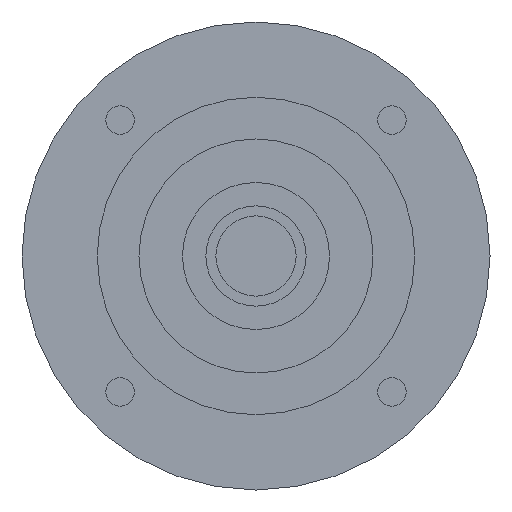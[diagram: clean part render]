
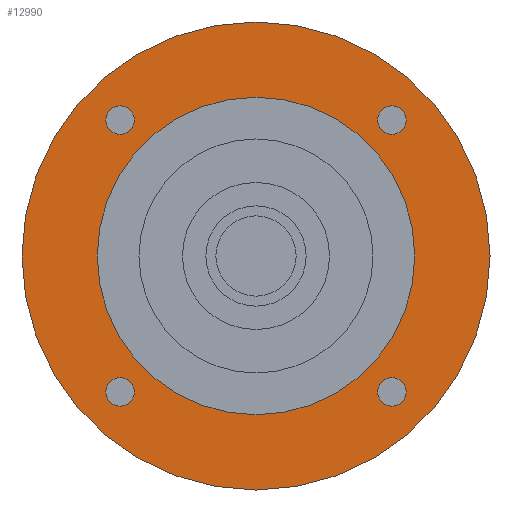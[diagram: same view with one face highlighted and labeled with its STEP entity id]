
A CAD part, left-side view. The second image highlights one B-rep face of the part: STEP entity #12990.
In plain terms, the highlighted planar face has unit normal (-1, 0, 0) as drawn and (0, 0, -1) by its records, which use the part's own axes.
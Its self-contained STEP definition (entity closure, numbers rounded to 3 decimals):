
#11830=CARTESIAN_POINT('',(-70.,0.,-59.701));
#11840=VERTEX_POINT('',#11830);
#11870=CARTESIAN_POINT('',(0.,0.,
-59.701));
#11880=DIRECTION('',(0.,0.,-1.));
#11890=DIRECTION('',(0.,-1.,0.));
#11900=AXIS2_PLACEMENT_3D('',#11870,#11880,#11890);
#11910=CIRCLE('',#11900,70.);
#11920=CARTESIAN_POINT('',(70.,0.,-59.701));
#11930=VERTEX_POINT('',#11920);
#11940=EDGE_CURVE('',#11840,#11930,#11910,.T.);
#12060=CARTESIAN_POINT('',(0.,0.,
-59.701));
#12070=DIRECTION('',(0.,0.,-1.));
#12080=DIRECTION('',(1.,0.,0.));
#12090=AXIS2_PLACEMENT_3D('',#12060,#12070,#12080);
#12100=PLANE('',#12090);
#12110=CARTESIAN_POINT('',(40.659,40.659,-59.701));
#12120=DIRECTION('',(0.,0.,-1.));
#12130=DIRECTION('',(0.,1.,0.));
#12140=AXIS2_PLACEMENT_3D('',#12110,#12120,#12130);
#12150=CIRCLE('',#12140,4.25);
#12160=CARTESIAN_POINT('',(40.659,44.909,-59.701));
#12170=VERTEX_POINT('',#12160);
#12180=CARTESIAN_POINT('',(40.659,36.409,-59.701));
#12190=VERTEX_POINT('',#12180);
#12200=EDGE_CURVE('',#12170,#12190,#12150,.T.);
#12210=ORIENTED_EDGE('',*,*,#12200,.F.);
#12220=EDGE_CURVE('',#12190,#12170,#12150,.T.);
#12230=ORIENTED_EDGE('',*,*,#12220,.F.);
#12240=EDGE_LOOP('',(#12230,#12210));
#12250=FACE_BOUND('',#12240,.T.);
#12260=CARTESIAN_POINT('',(-40.659,40.659,-59.701));
#12270=DIRECTION('',(0.,0.,-1.));
#12280=DIRECTION('',(-1.,0.,0.));
#12290=AXIS2_PLACEMENT_3D('',#12260,#12270,#12280);
#12300=CIRCLE('',#12290,4.25);
#12310=CARTESIAN_POINT('',(-44.909,40.659,-59.701));
#12320=VERTEX_POINT('',#12310);
#12330=CARTESIAN_POINT('',(-36.409,40.659,-59.701));
#12340=VERTEX_POINT('',#12330);
#12350=EDGE_CURVE('',#12320,#12340,#12300,.T.);
#12360=ORIENTED_EDGE('',*,*,#12350,.F.);
#12370=EDGE_CURVE('',#12340,#12320,#12300,.T.);
#12380=ORIENTED_EDGE('',*,*,#12370,.F.);
#12390=EDGE_LOOP('',(#12380,#12360));
#12400=FACE_BOUND('',#12390,.T.);
#12410=CARTESIAN_POINT('',(-40.659,-40.659,-59.701))
;
#12420=DIRECTION('',(0.,0.,-1.));
#12430=DIRECTION('',(0.,-1.,0.));
#12440=AXIS2_PLACEMENT_3D('',#12410,#12420,#12430);
#12450=CIRCLE('',#12440,4.25);
#12460=CARTESIAN_POINT('',(-40.659,-44.909,-59.701))
;
#12470=VERTEX_POINT('',#12460);
#12480=CARTESIAN_POINT('',(-40.659,-36.409,-59.701))
;
#12490=VERTEX_POINT('',#12480);
#12500=EDGE_CURVE('',#12470,#12490,#12450,.T.);
#12510=ORIENTED_EDGE('',*,*,#12500,.F.);
#12520=EDGE_CURVE('',#12490,#12470,#12450,.T.);
#12530=ORIENTED_EDGE('',*,*,#12520,.F.);
#12540=EDGE_LOOP('',(#12530,#12510));
#12550=FACE_BOUND('',#12540,.T.);
#12560=CARTESIAN_POINT('',(0.,0.,
-59.701));
#12570=DIRECTION('',(0.,0.,1.));
#12580=DIRECTION('',(0.,1.,0.));
#12590=AXIS2_PLACEMENT_3D('',#12560,#12570,#12580);
#12600=CIRCLE('',#12590,47.5);
#12610=CARTESIAN_POINT('',(-47.5,0.,-59.701));
#12620=VERTEX_POINT('',#12610);
#12630=CARTESIAN_POINT('',(47.5,0.,-59.701));
#12640=VERTEX_POINT('',#12630);
#12650=EDGE_CURVE('',#12620,#12640,#12600,.T.);
#12660=ORIENTED_EDGE('',*,*,#12650,.T.);
#12670=CARTESIAN_POINT('',(0.,47.5,-59.701));
#12680=VERTEX_POINT('',#12670);
#12690=EDGE_CURVE('',#12680,#12620,#12600,.T.);
#12700=ORIENTED_EDGE('',*,*,#12690,.T.);
#12710=EDGE_CURVE('',#12640,#12680,#12600,.T.);
#12720=ORIENTED_EDGE('',*,*,#12710,.T.);
#12730=EDGE_LOOP('',(#12720,#12700,#12660));
#12740=FACE_BOUND('',#12730,.T.);
#12750=CARTESIAN_POINT('',(40.659,-40.659,-59.701));
#12760=DIRECTION('',(0.,0.,-1.));
#12770=DIRECTION('',(1.,0.,0.));
#12780=AXIS2_PLACEMENT_3D('',#12750,#12760,#12770);
#12790=CIRCLE('',#12780,4.25);
#12800=CARTESIAN_POINT('',(44.909,-40.659,-59.701));
#12810=VERTEX_POINT('',#12800);
#12820=CARTESIAN_POINT('',(36.409,-40.659,-59.701));
#12830=VERTEX_POINT('',#12820);
#12840=EDGE_CURVE('',#12810,#12830,#12790,.T.);
#12850=ORIENTED_EDGE('',*,*,#12840,.F.);
#12860=EDGE_CURVE('',#12830,#12810,#12790,.T.);
#12870=ORIENTED_EDGE('',*,*,#12860,.F.);
#12880=EDGE_LOOP('',(#12870,#12850));
#12890=FACE_BOUND('',#12880,.T.);
#12900=ORIENTED_EDGE('',*,*,#11940,.T.);
#12910=CARTESIAN_POINT('',(0.,-70.,-59.701));
#12920=VERTEX_POINT('',#12910);
#12930=EDGE_CURVE('',#12920,#11840,#11910,.T.);
#12940=ORIENTED_EDGE('',*,*,#12930,.T.);
#12950=EDGE_CURVE('',#11930,#12920,#11910,.T.);
#12960=ORIENTED_EDGE('',*,*,#12950,.T.);
#12970=EDGE_LOOP('',(#12960,#12940,#12900));
#12980=FACE_OUTER_BOUND('',#12970,.T.);
#12990=ADVANCED_FACE('',(#12250,#12400,#12550,#12740,#12890,#12980),
#12100,.T.);
